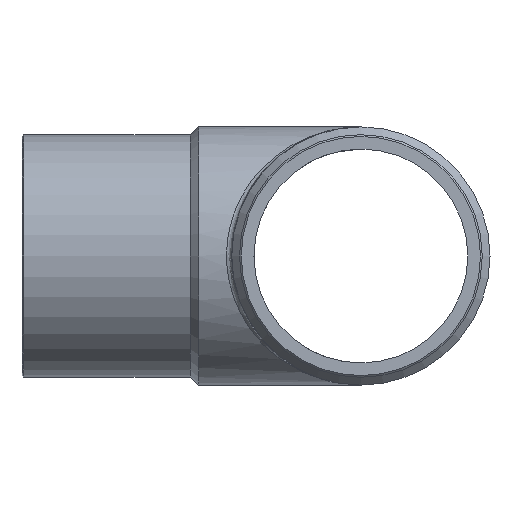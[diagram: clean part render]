
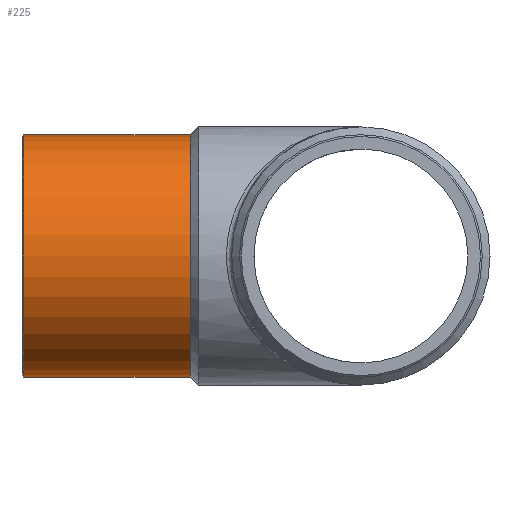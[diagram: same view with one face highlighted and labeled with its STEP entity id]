
A CAD part, left-side view. The second image highlights one B-rep face of the part: STEP entity #225.
In plain terms, the highlighted cylindrical face has radius 70 mm (diameter 140 mm), a full revolution.
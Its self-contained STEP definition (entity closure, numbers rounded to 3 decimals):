
#44=CIRCLE('',#275,70.);
#45=CIRCLE('',#277,70.);
#76=ORIENTED_EDGE('',*,*,#108,.T.);
#77=ORIENTED_EDGE('',*,*,#107,.F.);
#107=EDGE_CURVE('',#126,#126,#44,.T.);
#108=EDGE_CURVE('',#127,#127,#45,.F.);
#126=VERTEX_POINT('',#407);
#127=VERTEX_POINT('',#410);
#160=EDGE_LOOP('',(#76));
#161=EDGE_LOOP('',(#77));
#196=FACE_BOUND('',#160,.T.);
#197=FACE_BOUND('',#161,.T.);
#212=CYLINDRICAL_SURFACE('',#276,70.);
#225=ADVANCED_FACE('',(#196,#197),#212,.T.);
#275=AXIS2_PLACEMENT_3D('',#406,#345,#346);
#276=AXIS2_PLACEMENT_3D('',#408,#347,#348);
#277=AXIS2_PLACEMENT_3D('',#409,#349,#350);
#345=DIRECTION('',(0.,-1.,0.));
#346=DIRECTION('',(1.,0.,0.));
#347=DIRECTION('',(0.,-1.,0.));
#348=DIRECTION('',(1.,0.,0.));
#349=DIRECTION('',(0.,1.,0.));
#350=DIRECTION('',(-1.,0.,0.));
#406=CARTESIAN_POINT('',(0.,98.5,0.));
#407=CARTESIAN_POINT('',(70.,98.5,0.));
#408=CARTESIAN_POINT('',(0.,0.,0.));
#409=CARTESIAN_POINT('',(0.,194.5,0.));
#410=CARTESIAN_POINT('',(-70.,194.5,0.));
